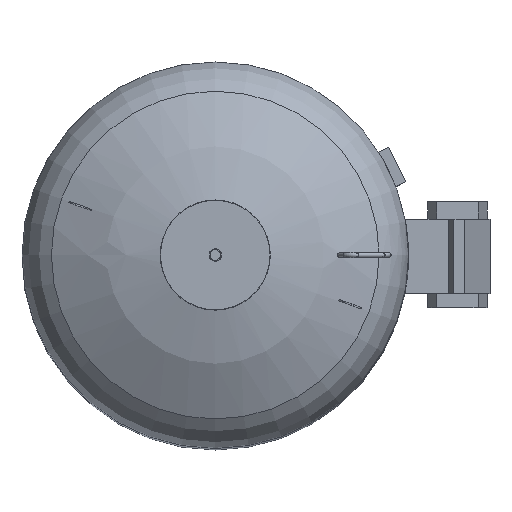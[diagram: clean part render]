
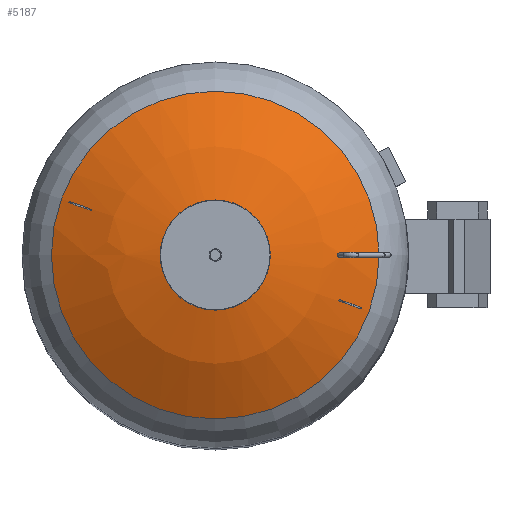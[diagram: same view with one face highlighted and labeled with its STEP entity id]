
A CAD part, top view. The second image highlights one B-rep face of the part: STEP entity #5187.
In plain terms, the highlighted spherical face has radius 967.7 mm.
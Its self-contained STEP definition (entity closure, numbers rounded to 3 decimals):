
#19=SPHERICAL_SURFACE('',#5566,967.7);
#142=FACE_BOUND('',#608,.T.);
#241=B_SPLINE_CURVE_WITH_KNOTS('',3,(#7773,#7774,#7775,#7776,#7777,#7778,
#7779,#7780,#7781,#7782,#7783,#7784,#7785,#7786,#7787,#7788,#7789,#7790),
 .UNSPECIFIED.,.F.,.F.,(4,2,2,2,2,2,2,2,4),(0.,0.302,0.605,
0.906,1.207,1.508,1.81,2.112,
2.414),.UNSPECIFIED.);
#242=B_SPLINE_CURVE_WITH_KNOTS('',3,(#7791,#7792,#7793,#7794,#7795,#7796,
#7797,#7798,#7799,#7800,#7801,#7802,#7803,#7804,#7805,#7806,#7807,#7808),
 .UNSPECIFIED.,.F.,.F.,(4,2,2,2,2,2,2,2,4),(2.414,2.717,
3.019,3.32,3.622,3.923,4.224,
4.526,4.829),.UNSPECIFIED.);
#314=FACE_OUTER_BOUND('',#607,.T.);
#607=EDGE_LOOP('',(#3604,#3605,#3606,#3607,#3608,#3609));
#608=EDGE_LOOP('',(#3610,#3611));
#1733=CIRCLE('',#5564,153.);
#1734=CIRCLE('',#5565,153.);
#1735=CIRCLE('',#5567,967.7);
#1736=CIRCLE('',#5568,508.692);
#1737=CIRCLE('',#5569,508.692);
#1989=VERTEX_POINT('',#7770);
#1990=VERTEX_POINT('',#7772);
#2107=VERTEX_POINT('',#8183);
#2108=VERTEX_POINT('',#8184);
#2109=VERTEX_POINT('',#8189);
#2110=VERTEX_POINT('',#8191);
#2518=EDGE_CURVE('',#1990,#1989,#241,.T.);
#2519=EDGE_CURVE('',#1989,#1990,#242,.T.);
#2687=EDGE_CURVE('',#2107,#2108,#1733,.T.);
#2688=EDGE_CURVE('',#2108,#2107,#1734,.T.);
#2690=EDGE_CURVE('',#2107,#2109,#1735,.T.);
#2691=EDGE_CURVE('',#2110,#2109,#1736,.T.);
#2692=EDGE_CURVE('',#2109,#2110,#1737,.T.);
#3604=ORIENTED_EDGE('',*,*,#2687,.T.);
#3605=ORIENTED_EDGE('',*,*,#2688,.T.);
#3606=ORIENTED_EDGE('',*,*,#2690,.T.);
#3607=ORIENTED_EDGE('',*,*,#2691,.F.);
#3608=ORIENTED_EDGE('',*,*,#2692,.F.);
#3609=ORIENTED_EDGE('',*,*,#2690,.F.);
#3610=ORIENTED_EDGE('',*,*,#2518,.T.);
#3611=ORIENTED_EDGE('',*,*,#2519,.T.);
#5187=ADVANCED_FACE('',(#314,#142),#19,.T.);
#5564=AXIS2_PLACEMENT_3D('',#8185,#6392,#6393);
#5565=AXIS2_PLACEMENT_3D('',#8186,#6394,#6395);
#5566=AXIS2_PLACEMENT_3D('',#8188,#6397,#6398);
#5567=AXIS2_PLACEMENT_3D('',#8190,#6399,#6400);
#5568=AXIS2_PLACEMENT_3D('',#8192,#6401,#6402);
#5569=AXIS2_PLACEMENT_3D('',#8193,#6403,#6404);
#6392=DIRECTION('center_axis',(0.,0.,-1.));
#6393=DIRECTION('ref_axis',(1.,0.,0.));
#6394=DIRECTION('center_axis',(0.,0.,-1.));
#6395=DIRECTION('ref_axis',(1.,0.,0.));
#6397=DIRECTION('center_axis',(0.,0.,1.));
#6398=DIRECTION('ref_axis',(1.,0.,0.));
#6399=DIRECTION('center_axis',(0.,-1.,0.));
#6400=DIRECTION('ref_axis',(-1.,0.,0.));
#6401=DIRECTION('center_axis',(0.,0.,-1.));
#6402=DIRECTION('ref_axis',(1.,0.,0.));
#6403=DIRECTION('center_axis',(0.,0.,-1.));
#6404=DIRECTION('ref_axis',(1.,0.,0.));
#7770=CARTESIAN_POINT('',(387.431,-8.,3565.403));
#7772=CARTESIAN_POINT('',(387.431,8.,3565.403));
#7773=CARTESIAN_POINT('Ctrl Pts',(387.431,8.,3565.403));
#7774=CARTESIAN_POINT('Ctrl Pts',(388.355,8.,3565.));
#7775=CARTESIAN_POINT('Ctrl Pts',(389.34,7.799,3564.569));
#7776=CARTESIAN_POINT('Ctrl Pts',(391.152,6.982,3563.777));
#7777=CARTESIAN_POINT('Ctrl Pts',(391.98,6.365,3563.416));
#7778=CARTESIAN_POINT('Ctrl Pts',(393.284,4.944,3562.846));
#7779=CARTESIAN_POINT('Ctrl Pts',(393.85,4.045,3562.599));
#7780=CARTESIAN_POINT('Ctrl Pts',(394.599,2.075,3562.271));
#7781=CARTESIAN_POINT('Ctrl Pts',(394.784,1.004,3562.19));
#7782=CARTESIAN_POINT('Ctrl Pts',(394.784,-1.004,3562.19));
#7783=CARTESIAN_POINT('Ctrl Pts',(394.599,-2.075,3562.271));
#7784=CARTESIAN_POINT('Ctrl Pts',(393.85,-4.045,3562.599));
#7785=CARTESIAN_POINT('Ctrl Pts',(393.284,-4.944,3562.846));
#7786=CARTESIAN_POINT('Ctrl Pts',(391.98,-6.365,3563.416));
#7787=CARTESIAN_POINT('Ctrl Pts',(391.152,-6.982,3563.777));
#7788=CARTESIAN_POINT('Ctrl Pts',(389.34,-7.799,3564.569));
#7789=CARTESIAN_POINT('Ctrl Pts',(388.355,-8.,3565.));
#7790=CARTESIAN_POINT('Ctrl Pts',(387.431,-8.,3565.403));
#7791=CARTESIAN_POINT('Ctrl Pts',(387.431,-8.,3565.403));
#7792=CARTESIAN_POINT('Ctrl Pts',(386.508,-8.,3565.807));
#7793=CARTESIAN_POINT('Ctrl Pts',(385.523,-7.799,3566.237));
#7794=CARTESIAN_POINT('Ctrl Pts',(383.71,-6.982,3567.029));
#7795=CARTESIAN_POINT('Ctrl Pts',(382.883,-6.365,3567.39));
#7796=CARTESIAN_POINT('Ctrl Pts',(381.578,-4.944,3567.96));
#7797=CARTESIAN_POINT('Ctrl Pts',(381.013,-4.045,3568.207));
#7798=CARTESIAN_POINT('Ctrl Pts',(380.263,-2.075,3568.535));
#7799=CARTESIAN_POINT('Ctrl Pts',(380.079,-1.004,3568.615));
#7800=CARTESIAN_POINT('Ctrl Pts',(380.079,1.004,3568.615));
#7801=CARTESIAN_POINT('Ctrl Pts',(380.263,2.075,3568.535));
#7802=CARTESIAN_POINT('Ctrl Pts',(381.013,4.045,3568.207));
#7803=CARTESIAN_POINT('Ctrl Pts',(381.578,4.944,3567.96));
#7804=CARTESIAN_POINT('Ctrl Pts',(382.883,6.365,3567.39));
#7805=CARTESIAN_POINT('Ctrl Pts',(383.71,6.982,3567.029));
#7806=CARTESIAN_POINT('Ctrl Pts',(385.523,7.799,3566.237));
#7807=CARTESIAN_POINT('Ctrl Pts',(386.508,8.,3565.807));
#7808=CARTESIAN_POINT('Ctrl Pts',(387.431,8.,3565.403));
#8183=CARTESIAN_POINT('',(-153.,0.,3634.209));
#8184=CARTESIAN_POINT('',(153.,0.,3634.209));
#8185=CARTESIAN_POINT('Origin',(0.,0.,3634.209));
#8186=CARTESIAN_POINT('Origin',(0.,0.,3634.209));
#8188=CARTESIAN_POINT('Origin',(0.,0.,2678.681));
#8189=CARTESIAN_POINT('',(-508.692,0.,3501.892));
#8190=CARTESIAN_POINT('Origin',(0.,0.,2678.681));
#8191=CARTESIAN_POINT('',(508.692,0.,3501.892));
#8192=CARTESIAN_POINT('Origin',(0.,0.,3501.892));
#8193=CARTESIAN_POINT('Origin',(0.,0.,3501.892));
